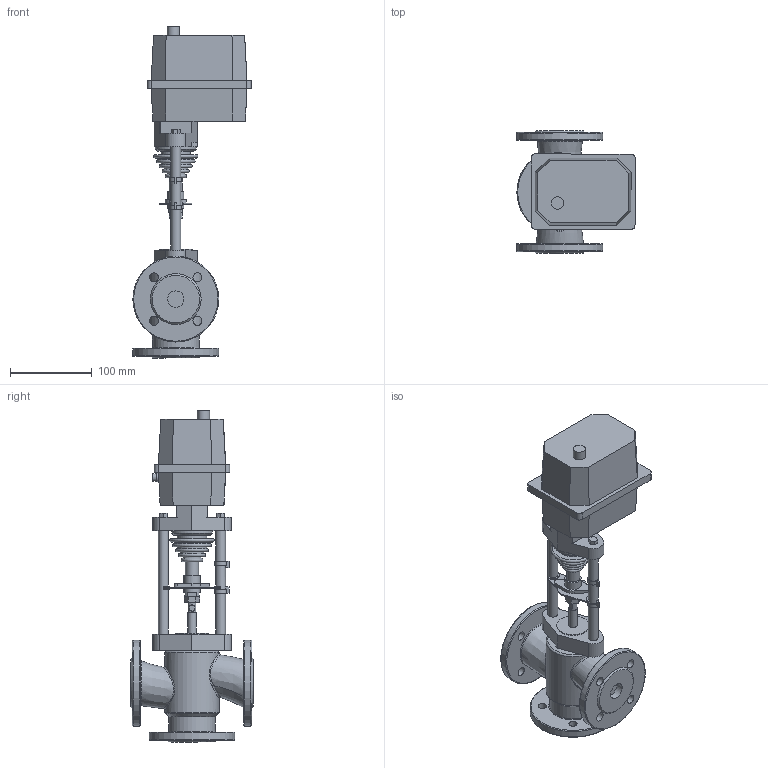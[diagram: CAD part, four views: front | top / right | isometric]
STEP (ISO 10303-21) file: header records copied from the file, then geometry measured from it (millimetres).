
FILE_DESCRIPTION(/* description */ (''),/* implementation_level */ '2;1');
FILE_NAME(/* name */ 'D:\Работа\work by\2017.01.17. клапаны для КПСР 3-хходоввые\Готовые файлы\ST mini\iges\Assembly1.stp',/* time_stamp */ '2017-02-23T16:09:11+03:00',/* author */ ('Admin'),/* organization */ ('unknown'),/* preprocessor_version */ 'ST-DEVELOPER v16.1',/* originating_system */ 'Autodesk Inventor 2016',/* authorisation */ '');
FILE_SCHEMA (('AUTOMOTIVE_DESIGN { 1 0 10303 214 3 1 1 }'));
Length unit declared in the file: millimetre
Products named in the file (2): ду 20; Assembly1
Assembly tree (1 placements, depth 2):
  Assembly1
    ду 20
Bounding box: 144.61 x 150 x 405.66 mm (x, y, z)
Volume: 1900982.5 mm3; surface area: 196626.9 mm2
Topology: 1 solids, 2 shells, 242 faces, 592 edges, 387 vertices
Faces by surface type: plane 151, cylinder 61, torus 15, bspline 8, cone 7
Full cylindrical faces by diameter (mm): 8.5 x1, 8.89 x1, 9.6 x1, 10 x6, 10.272 x1, 11 x8, 12 x4, 14.958 x1, 16 x1, 20 x5, 22.287 x1, 29.215 x1, 36 x1, 36.144 x1, 40 x1, 43.072 x1, 50 x1, 57 x1, 66 x1, 105 x3
Entity records: 8074 total; most frequent: CARTESIAN_POINT 2500, DIRECTION 1140, ORIENTED_EDGE 1024, EDGE_CURVE 512, AXIS2_PLACEMENT_3D 411, EDGE_LOOP 376, VERTEX_POINT 372, LINE 318
